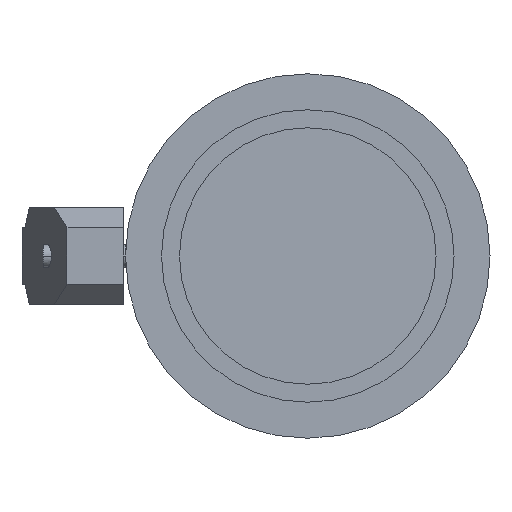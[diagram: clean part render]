
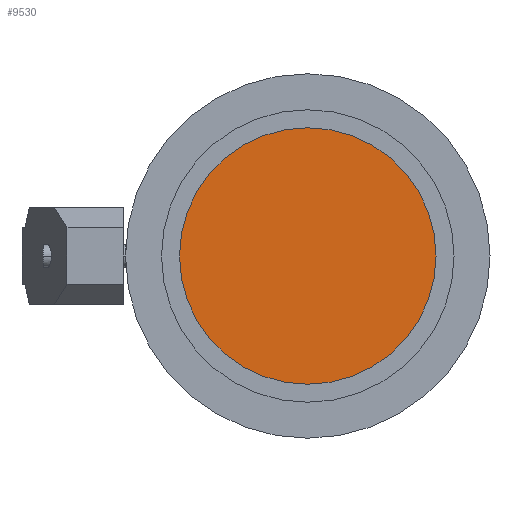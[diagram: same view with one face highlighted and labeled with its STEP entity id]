
A CAD part, left-side view. The second image highlights one B-rep face of the part: STEP entity #9530.
In plain terms, the highlighted planar face has unit normal (-1, 0, 0).
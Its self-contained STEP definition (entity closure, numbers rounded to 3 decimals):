
#9200=CARTESIAN_POINT('',(-290.595,94.875,
0.));
#9210=VERTEX_POINT('',#9200);
#9240=CARTESIAN_POINT('',(-290.595,37.875,0.));
#9250=DIRECTION('',(-1.,0.,0.));
#9260=DIRECTION('',(0.,-1.,0.));
#9270=AXIS2_PLACEMENT_3D('',#9240,#9250,#9260);
#9280=CIRCLE('',#9270,57.);
#9290=CARTESIAN_POINT('',(-290.595,-19.125,0.));
#9300=VERTEX_POINT('',#9290);
#9310=EDGE_CURVE('',#9210,#9300,#9280,.T.);
#9430=CARTESIAN_POINT('',(-290.595,12.651,
31.768));
#9440=DIRECTION('',(-1.,0.,0.));
#9450=DIRECTION('',(0.,-1.,0.));
#9460=AXIS2_PLACEMENT_3D('',#9430,#9440,#9450);
#9470=PLANE('',#9460);
#9480=ORIENTED_EDGE('',*,*,#9310,.T.);
#9490=EDGE_CURVE('',#9300,#9210,#9280,.T.);
#9500=ORIENTED_EDGE('',*,*,#9490,.T.);
#9510=EDGE_LOOP('',(#9500,#9480));
#9520=FACE_OUTER_BOUND('',#9510,.T.);
#9530=ADVANCED_FACE('',(#9520),#9470,.T.);
